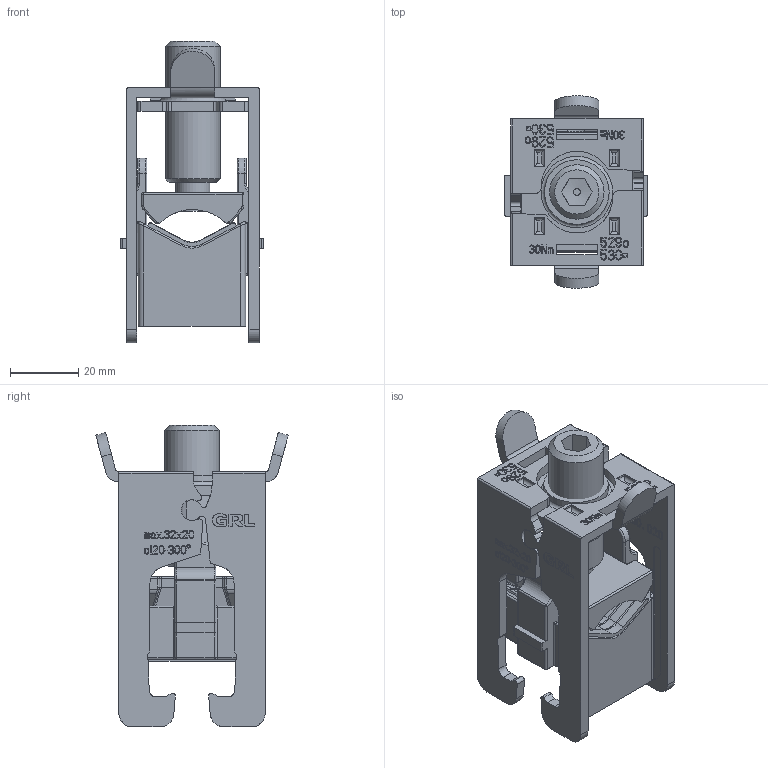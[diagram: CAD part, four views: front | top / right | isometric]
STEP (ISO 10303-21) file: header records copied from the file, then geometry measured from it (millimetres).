
FILE_DESCRIPTION (( 'STEP AP203' ), '1' );
FILE_NAME ('54760.STEP', '2021-08-13T07:52:08', ( '' ), ( '' ), 'SwSTEP 2.0', 'SolidWorks 2017', '' );
FILE_SCHEMA (( 'CONFIG_CONTROL_DESIGN' ));
Products named in the file (2): 54760
Bounding box: 42 x 56.55 x 88.67 mm (x, y, z)
Volume: 52583.8 mm3; surface area: 30250.6 mm2
Topology: 6 solids, 6 shells, 3175 faces, 8735 edges, 5666 vertices
Faces by surface type: plane 2538, cylinder 283, bspline 190, torus 151, sphere 8, cone 5
Full cylindrical faces by diameter (mm): 0.6 x2, 1 x2, 8.5 x1, 10 x1, 10.5 x1, 13 x1, 14.5 x1, 16 x1, 19 x1
Entity records: 118071 total; most frequent: CARTESIAN_POINT 41165, ORIENTED_EDGE 17308, DIRECTION 13501, EDGE_CURVE 8654, LINE 6591, VECTOR 6591, VERTEX_POINT 5663, AXIS2_PLACEMENT_3D 3455
